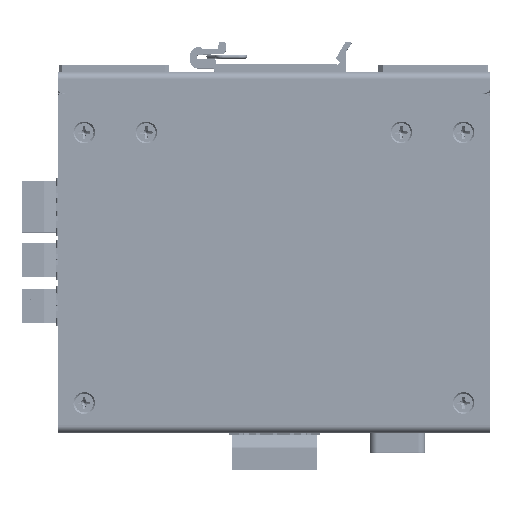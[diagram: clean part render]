
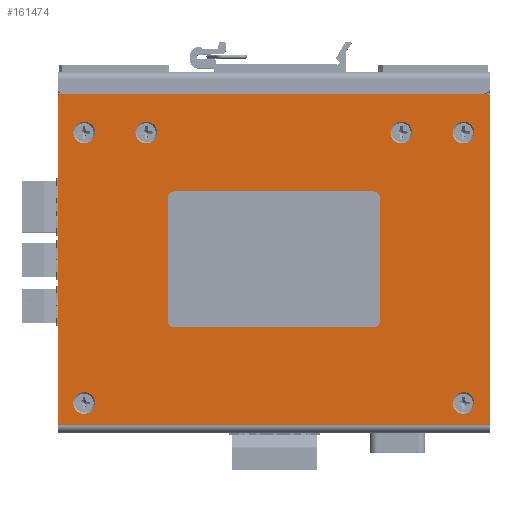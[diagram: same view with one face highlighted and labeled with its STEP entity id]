
A CAD part, top view. The second image highlights one B-rep face of the part: STEP entity #161474.
In plain terms, the highlighted planar face has unit normal (0, 0, 1).
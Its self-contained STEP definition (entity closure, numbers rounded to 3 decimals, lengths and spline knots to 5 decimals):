
#5637=CIRCLE('',#176134,0.002);
#5639=CIRCLE('',#176137,0.002);
#5641=CIRCLE('',#176140,0.002);
#5643=CIRCLE('',#176143,0.002);
#5673=CIRCLE('',#176209,0.00127);
#5675=CIRCLE('',#176212,0.00127);
#5677=CIRCLE('',#176215,0.00325);
#5679=CIRCLE('',#176218,0.00325);
#5681=CIRCLE('',#176221,0.00325);
#5683=CIRCLE('',#176224,0.00325);
#5685=CIRCLE('',#176227,0.00325);
#5687=CIRCLE('',#176230,0.00325);
#20508=LINE('',#271436,#38350);
#20511=LINE('',#271450,#38353);
#20518=LINE('',#271469,#38360);
#20519=LINE('',#271471,#38361);
#20541=LINE('',#271552,#38383);
#20542=LINE('',#271553,#38384);
#20543=LINE('',#271554,#38385);
#20544=LINE('',#271555,#38386);
#38350=VECTOR('',#211170,1.);
#38353=VECTOR('',#211183,1.);
#38360=VECTOR('',#211196,1.);
#38361=VECTOR('',#211199,1.);
#38383=VECTOR('',#211315,1.);
#38384=VECTOR('',#211316,1.);
#38385=VECTOR('',#211317,1.);
#38386=VECTOR('',#211318,1.);
#78544=ORIENTED_EDGE('',*,*,#106468,.F.);
#78545=ORIENTED_EDGE('',*,*,#106320,.T.);
#78546=ORIENTED_EDGE('',*,*,#106469,.T.);
#78547=ORIENTED_EDGE('',*,*,#106324,.T.);
#78548=ORIENTED_EDGE('',*,*,#106470,.T.);
#78549=ORIENTED_EDGE('',*,*,#106332,.T.);
#78550=ORIENTED_EDGE('',*,*,#106471,.F.);
#78551=ORIENTED_EDGE('',*,*,#106328,.T.);
#78552=ORIENTED_EDGE('',*,*,#106441,.T.);
#78553=ORIENTED_EDGE('',*,*,#106443,.T.);
#78554=ORIENTED_EDGE('',*,*,#106445,.T.);
#78555=ORIENTED_EDGE('',*,*,#106447,.T.);
#78556=ORIENTED_EDGE('',*,*,#106449,.T.);
#78557=ORIENTED_EDGE('',*,*,#106451,.T.);
#78558=ORIENTED_EDGE('',*,*,#106439,.T.);
#78559=ORIENTED_EDGE('',*,*,#106429,.F.);
#78560=ORIENTED_EDGE('',*,*,#106437,.T.);
#78561=ORIENTED_EDGE('',*,*,#106420,.T.);
#78562=ORIENTED_EDGE('',*,*,#106430,.F.);
#78563=ORIENTED_EDGE('',*,*,#106413,.F.);
#106320=EDGE_CURVE('',#122964,#122963,#5637,.T.);
#106324=EDGE_CURVE('',#122968,#122967,#5639,.T.);
#106328=EDGE_CURVE('',#122972,#122971,#5641,.T.);
#106332=EDGE_CURVE('',#122976,#122975,#5643,.T.);
#106413=EDGE_CURVE('',#123027,#123028,#20508,.T.);
#106420=EDGE_CURVE('',#123034,#123033,#20511,.T.);
#106429=EDGE_CURVE('',#123042,#123039,#20518,.T.);
#106430=EDGE_CURVE('',#123028,#123033,#20519,.T.);
#106437=EDGE_CURVE('',#123042,#123034,#5673,.T.);
#106439=EDGE_CURVE('',#123027,#123039,#5675,.T.);
#106441=EDGE_CURVE('',#123044,#123044,#5677,.T.);
#106443=EDGE_CURVE('',#123046,#123046,#5679,.T.);
#106445=EDGE_CURVE('',#123048,#123048,#5681,.T.);
#106447=EDGE_CURVE('',#123050,#123050,#5683,.T.);
#106449=EDGE_CURVE('',#123052,#123052,#5685,.T.);
#106451=EDGE_CURVE('',#123054,#123054,#5687,.T.);
#106468=EDGE_CURVE('',#122964,#122971,#20541,.T.);
#106469=EDGE_CURVE('',#122963,#122968,#20542,.T.);
#106470=EDGE_CURVE('',#122967,#122976,#20543,.T.);
#106471=EDGE_CURVE('',#122972,#122975,#20544,.T.);
#122963=VERTEX_POINT('',#271246);
#122964=VERTEX_POINT('',#271248);
#122967=VERTEX_POINT('',#271255);
#122968=VERTEX_POINT('',#271257);
#122971=VERTEX_POINT('',#271264);
#122972=VERTEX_POINT('',#271266);
#122975=VERTEX_POINT('',#271273);
#122976=VERTEX_POINT('',#271275);
#123027=VERTEX_POINT('',#271435);
#123028=VERTEX_POINT('',#271437);
#123033=VERTEX_POINT('',#271449);
#123034=VERTEX_POINT('',#271451);
#123039=VERTEX_POINT('',#271463);
#123042=VERTEX_POINT('',#271468);
#123044=VERTEX_POINT('',#271490);
#123046=VERTEX_POINT('',#271495);
#123048=VERTEX_POINT('',#271500);
#123050=VERTEX_POINT('',#271505);
#123052=VERTEX_POINT('',#271510);
#123054=VERTEX_POINT('',#271515);
#135356=EDGE_LOOP('',(#78544,#78545,#78546,#78547,#78548,#78549,#78550,
#78551));
#135357=EDGE_LOOP('',(#78552));
#135358=EDGE_LOOP('',(#78553));
#135359=EDGE_LOOP('',(#78554));
#135360=EDGE_LOOP('',(#78555));
#135361=EDGE_LOOP('',(#78556));
#135362=EDGE_LOOP('',(#78557));
#135363=EDGE_LOOP('',(#78558,#78559,#78560,#78561,#78562,#78563));
#145663=FACE_BOUND('',#135356,.T.);
#145664=FACE_BOUND('',#135357,.T.);
#145665=FACE_BOUND('',#135358,.T.);
#145666=FACE_BOUND('',#135359,.T.);
#145667=FACE_BOUND('',#135360,.T.);
#145668=FACE_BOUND('',#135361,.T.);
#145669=FACE_BOUND('',#135362,.T.);
#145670=FACE_BOUND('',#135363,.T.);
#153443=PLANE('',#176250);
#161474=ADVANCED_FACE('',(#145663,#145664,#145665,#145666,#145667,#145668,
#145669,#145670),#153443,.F.);
#176134=AXIS2_PLACEMENT_3D('',#271247,#210984,#210985);
#176137=AXIS2_PLACEMENT_3D('',#271256,#210992,#210993);
#176140=AXIS2_PLACEMENT_3D('',#271265,#211000,#211001);
#176143=AXIS2_PLACEMENT_3D('',#271274,#211008,#211009);
#176209=AXIS2_PLACEMENT_3D('',#271482,#211215,#211216);
#176212=AXIS2_PLACEMENT_3D('',#271485,#211221,#211222);
#176215=AXIS2_PLACEMENT_3D('',#271489,#211227,#211228);
#176218=AXIS2_PLACEMENT_3D('',#271494,#211233,#211234);
#176221=AXIS2_PLACEMENT_3D('',#271499,#211239,#211240);
#176224=AXIS2_PLACEMENT_3D('',#271504,#211245,#211246);
#176227=AXIS2_PLACEMENT_3D('',#271509,#211251,#211252);
#176230=AXIS2_PLACEMENT_3D('',#271514,#211257,#211258);
#176250=AXIS2_PLACEMENT_3D('',#271551,#211313,#211314);
#210984=DIRECTION('',(0.,0.,-1.));
#210985=DIRECTION('',(0.,1.,0.));
#210992=DIRECTION('',(0.,0.,-1.));
#210993=DIRECTION('',(0.,1.,0.));
#211000=DIRECTION('',(0.,0.,-1.));
#211001=DIRECTION('',(0.,1.,0.));
#211008=DIRECTION('',(0.,0.,-1.));
#211009=DIRECTION('',(0.,1.,0.));
#211170=DIRECTION('',(0.,-1.,0.));
#211183=DIRECTION('',(0.,-1.,0.));
#211196=DIRECTION('',(1.,0.,0.));
#211199=DIRECTION('',(-1.,0.,0.));
#211215=DIRECTION('',(0.,0.,1.));
#211216=DIRECTION('',(0.,1.,0.));
#211221=DIRECTION('',(0.,0.,1.));
#211222=DIRECTION('',(0.,1.,0.));
#211227=DIRECTION('',(0.,0.,-1.));
#211228=DIRECTION('',(0.,1.,0.));
#211233=DIRECTION('',(0.,0.,-1.));
#211234=DIRECTION('',(0.,1.,0.));
#211239=DIRECTION('',(0.,0.,-1.));
#211240=DIRECTION('',(0.,1.,0.));
#211245=DIRECTION('',(0.,0.,-1.));
#211246=DIRECTION('',(0.,1.,0.));
#211251=DIRECTION('',(0.,0.,-1.));
#211252=DIRECTION('',(0.,1.,0.));
#211257=DIRECTION('',(0.,0.,-1.));
#211258=DIRECTION('',(0.,1.,0.));
#211313=DIRECTION('',(0.,0.,-1.));
#211314=DIRECTION('',(0.,1.,0.));
#211315=DIRECTION('',(-1.,0.,0.));
#211316=DIRECTION('',(0.,-1.,0.));
#211317=DIRECTION('',(-1.,0.,0.));
#211318=DIRECTION('',(0.,-1.,0.));
#271246=CARTESIAN_POINT('',(0.03175,0.01307,0.0508));
#271247=CARTESIAN_POINT('',(0.02975,0.01307,0.0508));
#271248=CARTESIAN_POINT('',(0.02975,0.01507,0.0508));
#271255=CARTESIAN_POINT('',(0.02975,-0.02557,0.0508));
#271256=CARTESIAN_POINT('',(0.02975,-0.02357,0.0508));
#271257=CARTESIAN_POINT('',(0.03175,-0.02357,0.0508));
#271264=CARTESIAN_POINT('',(-0.02975,0.01507,0.0508));
#271265=CARTESIAN_POINT('',(-0.02975,0.01307,0.0508));
#271266=CARTESIAN_POINT('',(-0.03175,0.01307,0.0508));
#271273=CARTESIAN_POINT('',(-0.03175,-0.02357,0.0508));
#271274=CARTESIAN_POINT('',(-0.02975,-0.02357,0.0508));
#271275=CARTESIAN_POINT('',(-0.02975,-0.02557,0.0508));
#271435=CARTESIAN_POINT('',(0.06459,0.04304,0.0508));
#271436=CARTESIAN_POINT('',(0.06459,-0.05351,0.0508));
#271437=CARTESIAN_POINT('',(0.06459,-0.05481,0.0508));
#271449=CARTESIAN_POINT('',(-0.06459,-0.05481,0.0508));
#271450=CARTESIAN_POINT('',(-0.06459,0.04139,0.0508));
#271451=CARTESIAN_POINT('',(-0.06459,0.04304,0.0508));
#271463=CARTESIAN_POINT('',(0.06332,0.04431,0.0508));
#271468=CARTESIAN_POINT('',(-0.06332,0.04431,0.0508));
#271469=CARTESIAN_POINT('',(0.00042,0.04431,0.0508));
#271471=CARTESIAN_POINT('',(0.06459,-0.05481,0.0508));
#271482=CARTESIAN_POINT('',(-0.06332,0.04304,0.0508));
#271485=CARTESIAN_POINT('',(0.06332,0.04304,0.0508));
#271489=CARTESIAN_POINT('',(-0.0381,0.03269,0.0508));
#271490=CARTESIAN_POINT('',(-0.0381,0.03594,0.0508));
#271494=CARTESIAN_POINT('',(-0.05665,0.03269,0.0508));
#271495=CARTESIAN_POINT('',(-0.05665,0.03594,0.0508));
#271499=CARTESIAN_POINT('',(0.05665,0.03269,0.0508));
#271500=CARTESIAN_POINT('',(0.05665,0.03594,0.0508));
#271504=CARTESIAN_POINT('',(0.05665,-0.04814,0.0508));
#271505=CARTESIAN_POINT('',(0.05665,-0.04489,0.0508));
#271509=CARTESIAN_POINT('',(-0.05665,-0.04814,0.0508));
#271510=CARTESIAN_POINT('',(-0.05665,-0.04489,0.0508));
#271514=CARTESIAN_POINT('',(0.0381,0.03269,0.0508));
#271515=CARTESIAN_POINT('',(0.0381,0.03594,0.0508));
#271551=CARTESIAN_POINT('',(0.00042,0.04139,0.0508));
#271552=CARTESIAN_POINT('',(0.,0.01507,0.0508));
#271553=CARTESIAN_POINT('',(0.03175,-0.00525,0.0508));
#271554=CARTESIAN_POINT('',(0.,-0.02557,0.0508));
#271555=CARTESIAN_POINT('',(-0.03175,-0.00525,0.0508));
